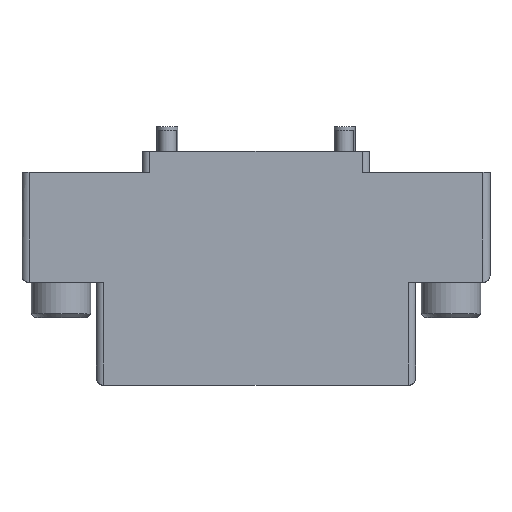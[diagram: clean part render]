
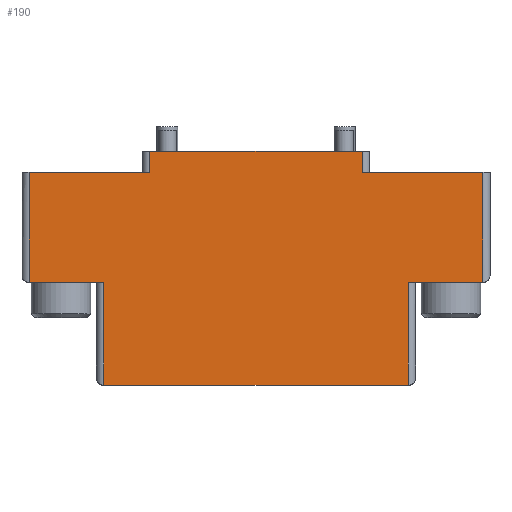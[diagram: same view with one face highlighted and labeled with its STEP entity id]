
A CAD part, top view. The second image highlights one B-rep face of the part: STEP entity #190.
In plain terms, the highlighted planar face has unit normal (0, 0, 1).
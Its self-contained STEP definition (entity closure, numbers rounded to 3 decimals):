
#190=ADVANCED_FACE('',(#538),#539,.F.);
#538=FACE_OUTER_BOUND('',#1129,.T.);
#539=PLANE('',#1130);
#1129=EDGE_LOOP('',(#1716,#1717,#1718,#1719,#1720,#1721,#1722,#1723,#1724,#1725,#1726,#1727));
#1130=AXIS2_PLACEMENT_3D('',#1728,#1729,#1730);
#1716=ORIENTED_EDGE('',*,*,#2949,.F.);
#1717=ORIENTED_EDGE('',*,*,#2950,.T.);
#1718=ORIENTED_EDGE('',*,*,#2951,.F.);
#1719=ORIENTED_EDGE('',*,*,#2952,.T.);
#1720=ORIENTED_EDGE('',*,*,#2953,.T.);
#1721=ORIENTED_EDGE('',*,*,#2954,.T.);
#1722=ORIENTED_EDGE('',*,*,#2955,.F.);
#1723=ORIENTED_EDGE('',*,*,#2956,.T.);
#1724=ORIENTED_EDGE('',*,*,#2957,.T.);
#1725=ORIENTED_EDGE('',*,*,#2958,.T.);
#1726=ORIENTED_EDGE('',*,*,#2959,.F.);
#1727=ORIENTED_EDGE('',*,*,#2960,.T.);
#1728=CARTESIAN_POINT('',(33.0,-33.0,15.0));
#1729=DIRECTION('',(0.0,0.0,-1.0));
#1730=DIRECTION('',(0.0,-1.0,0.0));
#2949=EDGE_CURVE('',#3407,#3408,#3409,.T.);
#2950=EDGE_CURVE('',#3407,#3410,#3411,.T.);
#2951=EDGE_CURVE('',#3412,#3410,#3413,.T.);
#2952=EDGE_CURVE('',#3412,#3414,#3415,.T.);
#2953=EDGE_CURVE('',#3414,#3416,#3417,.T.);
#2954=EDGE_CURVE('',#3416,#3418,#3419,.T.);
#2955=EDGE_CURVE('',#3420,#3418,#3421,.T.);
#2956=EDGE_CURVE('',#3420,#3422,#3423,.T.);
#2957=EDGE_CURVE('',#3422,#3424,#3425,.T.);
#2958=EDGE_CURVE('',#3424,#3426,#3427,.T.);
#2959=EDGE_CURVE('',#3428,#3426,#3429,.T.);
#2960=EDGE_CURVE('',#3428,#3408,#3430,.T.);
#3407=VERTEX_POINT('',#4158);
#3408=VERTEX_POINT('',#4159);
#3409=LINE('',#4160,#4161);
#3410=VERTEX_POINT('',#4162);
#3411=LINE('',#4163,#4164);
#3412=VERTEX_POINT('',#4165);
#3413=LINE('',#4166,#4167);
#3414=VERTEX_POINT('',#4168);
#3415=LINE('',#4169,#4170);
#3416=VERTEX_POINT('',#4171);
#3417=LINE('',#4172,#4173);
#3418=VERTEX_POINT('',#4174);
#3419=LINE('',#4175,#4176);
#3420=VERTEX_POINT('',#4177);
#3421=LINE('',#4178,#4179);
#3422=VERTEX_POINT('',#4180);
#3423=LINE('',#4181,#4182);
#3424=VERTEX_POINT('',#4183);
#3425=LINE('',#4184,#4185);
#3426=VERTEX_POINT('',#4186);
#3427=LINE('',#4187,#4188);
#3428=VERTEX_POINT('',#4189);
#3429=LINE('',#4190,#4191);
#3430=LINE('',#4192,#4193);
#4158=CARTESIAN_POINT('',(21.5,-33.0,15.0));
#4159=CARTESIAN_POINT('',(-21.5,-33.0,15.0));
#4160=CARTESIAN_POINT('',(33.0,-33.0,15.0));
#4161=VECTOR('',#5085,1.0);
#4162=CARTESIAN_POINT('',(21.5,-18.5,15.0));
#4163=CARTESIAN_POINT('',(21.5,-18.5,15.0));
#4164=VECTOR('',#5086,1.0);
#4165=CARTESIAN_POINT('',(32.0,-18.5,15.0));
#4166=CARTESIAN_POINT('',(33.0,-18.5,15.0));
#4167=VECTOR('',#5087,1.0);
#4168=CARTESIAN_POINT('',(32.0,-3.0,15.0));
#4169=CARTESIAN_POINT('',(32.0,-33.0,15.0));
#4170=VECTOR('',#5088,1.0);
#4171=CARTESIAN_POINT('',(15.0,-3.0,15.0));
#4172=CARTESIAN_POINT('',(33.0,-3.0,15.0));
#4173=VECTOR('',#5089,1.0);
#4174=CARTESIAN_POINT('',(15.0,0.0,15.0));
#4175=CARTESIAN_POINT('',(15.0,-3.0,15.0));
#4176=VECTOR('',#5090,1.0);
#4177=CARTESIAN_POINT('',(-15.0,0.0,15.0));
#4178=CARTESIAN_POINT('',(-16.0,0.0,15.0));
#4179=VECTOR('',#5091,1.0);
#4180=CARTESIAN_POINT('',(-15.0,-3.0,15.0));
#4181=CARTESIAN_POINT('',(-15.0,-3.0,15.0));
#4182=VECTOR('',#5092,1.0);
#4183=CARTESIAN_POINT('',(-32.0,-3.0,15.0));
#4184=CARTESIAN_POINT('',(33.0,-3.0,15.0));
#4185=VECTOR('',#5093,1.0);
#4186=CARTESIAN_POINT('',(-32.0,-18.5,15.0));
#4187=CARTESIAN_POINT('',(-32.0,-33.0,15.0));
#4188=VECTOR('',#5094,1.0);
#4189=CARTESIAN_POINT('',(-21.5,-18.5,15.0));
#4190=CARTESIAN_POINT('',(-22.5,-18.5,15.0));
#4191=VECTOR('',#5095,1.0);
#4192=CARTESIAN_POINT('',(-21.5,-32.0,15.0));
#4193=VECTOR('',#5096,1.0);
#5085=DIRECTION('',(-1.0,0.0,0.0));
#5086=DIRECTION('',(0.0,1.0,0.0));
#5087=DIRECTION('',(-1.0,0.0,0.0));
#5088=DIRECTION('',(0.0,1.0,0.0));
#5089=DIRECTION('',(-1.0,0.0,0.0));
#5090=DIRECTION('',(0.0,1.0,0.0));
#5091=DIRECTION('',(1.0,0.0,0.0));
#5092=DIRECTION('',(0.0,-1.0,0.0));
#5093=DIRECTION('',(-1.0,0.0,0.0));
#5094=DIRECTION('',(0.0,-1.0,0.0));
#5095=DIRECTION('',(-1.0,0.0,0.0));
#5096=DIRECTION('',(0.0,-1.0,0.0));
